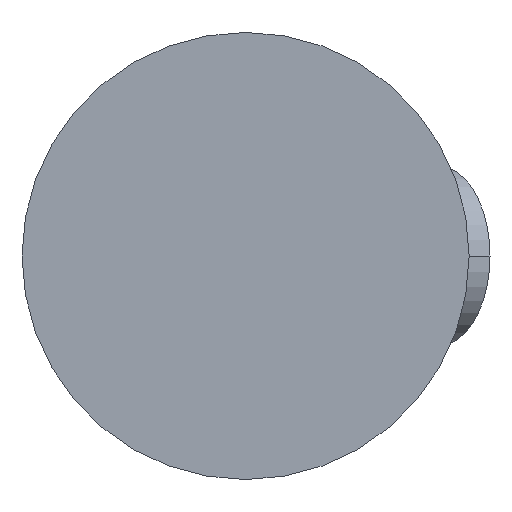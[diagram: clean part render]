
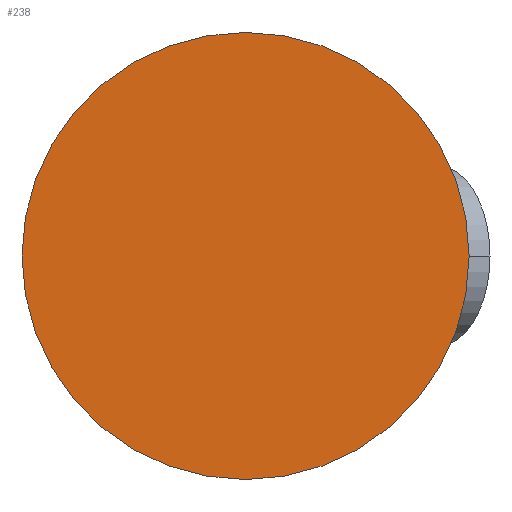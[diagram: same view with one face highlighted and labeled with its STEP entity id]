
A CAD part, left-side view. The second image highlights one B-rep face of the part: STEP entity #238.
In plain terms, the highlighted planar face has unit normal (-1, 0, 0).
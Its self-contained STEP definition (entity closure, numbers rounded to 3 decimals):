
#22 = EDGE_LOOP ( 'NONE', ( #594, #208 ) ) ;
#63 = VERTEX_POINT ( 'NONE', #242 ) ;
#111 = CARTESIAN_POINT ( 'NONE',  ( -6., 0., 0. ) ) ;
#155 = EDGE_CURVE ( 'NONE', #63, #444, #646, .T. ) ;
#175 = PLANE ( 'NONE',  #350 ) ;
#208 = ORIENTED_EDGE ( 'NONE', *, *, #155, .F. ) ;
#233 = AXIS2_PLACEMENT_3D ( 'NONE', #240, #385, #640 ) ;
#235 = CARTESIAN_POINT ( 'NONE',  ( -6., 0., -30. ) ) ;
#238 = ADVANCED_FACE ( 'NONE', ( #281 ), #175, .F. ) ;
#240 = CARTESIAN_POINT ( 'NONE',  ( -6., 0., 0. ) ) ;
#242 = CARTESIAN_POINT ( 'NONE',  ( -6., 0., 30. ) ) ;
#267 = DIRECTION ( 'NONE',  ( 1., 0., 0. ) ) ;
#281 = FACE_OUTER_BOUND ( 'NONE', #22, .T. ) ;
#298 = EDGE_CURVE ( 'NONE', #444, #63, #633, .T. ) ;
#310 = DIRECTION ( 'NONE',  ( 0., 0., -1. ) ) ;
#350 = AXIS2_PLACEMENT_3D ( 'NONE', #644, #502, #393 ) ;
#385 = DIRECTION ( 'NONE',  ( 1., 0., 0. ) ) ;
#393 = DIRECTION ( 'NONE',  ( 0., 0., -1. ) ) ;
#444 = VERTEX_POINT ( 'NONE', #235 ) ;
#502 = DIRECTION ( 'NONE',  ( 1., 0., 0. ) ) ;
#531 = AXIS2_PLACEMENT_3D ( 'NONE', #111, #267, #310 ) ;
#594 = ORIENTED_EDGE ( 'NONE', *, *, #298, .F. ) ;
#633 = CIRCLE ( 'NONE', #531, 30. ) ;
#640 = DIRECTION ( 'NONE',  ( 0., 0., -1. ) ) ;
#644 = CARTESIAN_POINT ( 'NONE',  ( -6., 0., 0. ) ) ;
#646 = CIRCLE ( 'NONE', #233, 30. ) ;
